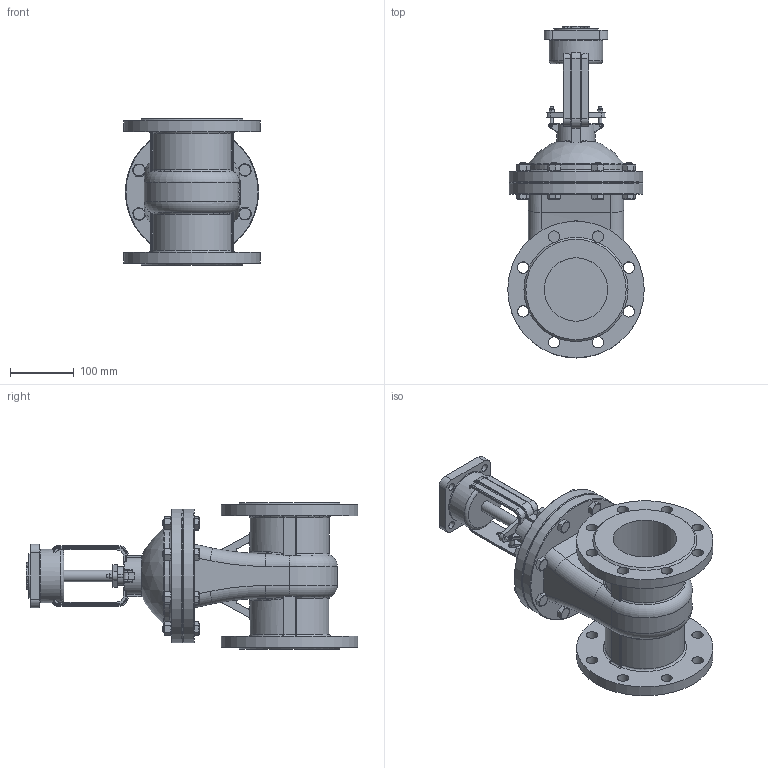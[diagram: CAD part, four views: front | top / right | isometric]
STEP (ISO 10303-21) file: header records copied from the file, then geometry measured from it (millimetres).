
FILE_DESCRIPTION(('STEP AP242'), '1');
FILE_NAME('GVWR3535M-2W-F-ÎÑÒ Çàäâèæêà êëèíîâàÿ ñ âûäâèæíûì øòîêîì Äó100 Ðó16', '2026-06-04T20:56:43', ('R2D2'), (''), 'C3D Converter', 'C3D Toolkit', '');
FILE_SCHEMA(('AP242_MANAGED_MODEL_BASED_3D_ENGINEERING_MIM_LF { 1 0 10303 442 1 1 4 }'));
Length unit declared in the file: millimetre
Products named in the file (1): GVWR3535M-2W-F-ОСТ
Bounding box: 215 x 522.5 x 230 mm (x, y, z)
Volume: 6226621.5 mm3; surface area: 535716.8 mm2
Topology: 1 solids, 1 shells, 825 faces, 2184 edges, 1399 vertices
Faces by surface type: plane 369, cylinder 183, extrusion 101, torus 68, cone 64, bspline 39, sphere 1
Full cylindrical faces by diameter (mm): 3 x3, 5 x4, 8 x2, 12 x20, 18 x18, 20 x1, 30 x1, 32 x1, 50 x1, 52 x1, 70 x1, 84.405 x1, 100 x2, 150 x2, 210 x2, 215 x2
Entity records: 52512 total; most frequent: CARTESIAN_POINT 26611, ORIENTED_EDGE 4158, DIRECTION 3447, EDGE_CURVE 2079, VERTEX_POINT 1397, AXIS2_PLACEMENT_3D 1245, EDGE_LOOP 1040, VECTOR 957
